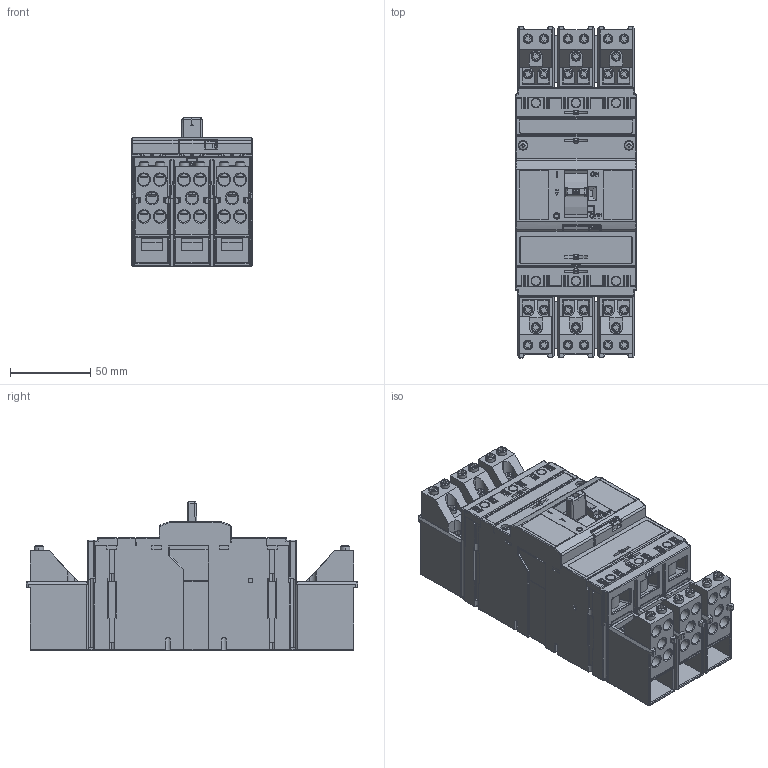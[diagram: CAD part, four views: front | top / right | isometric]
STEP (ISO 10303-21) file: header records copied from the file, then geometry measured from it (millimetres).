
FILE_DESCRIPTION (( 'STEP AP214' ), '1' );
FILE_NAME ('BC160NT305__CS-BC-B014_fin.step', '2013-05-16T10:47:59', ( '' ), ( '' ), 'SwSTEP 2.0', 'SolidWorks 2011', '' );
FILE_SCHEMA (( 'AUTOMOTIVE_DESIGN' ));
Length unit declared in the file: millimetre
Products named in the file (1): BC160NT305__CS-BC-B014_fin
Bounding box: 75 x 207 x 92.5 mm (x, y, z)
Volume: 800882.3 mm3; surface area: 223158.3 mm2
Topology: 11 solids, 11 shells, 5596 faces, 15014 edges, 9551 vertices
Faces by surface type: plane 3224, cylinder 1747, torus 284, cone 212, bspline 79, sphere 50
Entity records: 243974 total; most frequent: CARTESIAN_POINT 43523, ORIENTED_EDGE 29926, DIRECTION 27733, EDGE_CURVE 14963, VECTOR 10433, LINE 10433, VERTEX_POINT 9548, AXIS2_PLACEMENT_3D 8650
